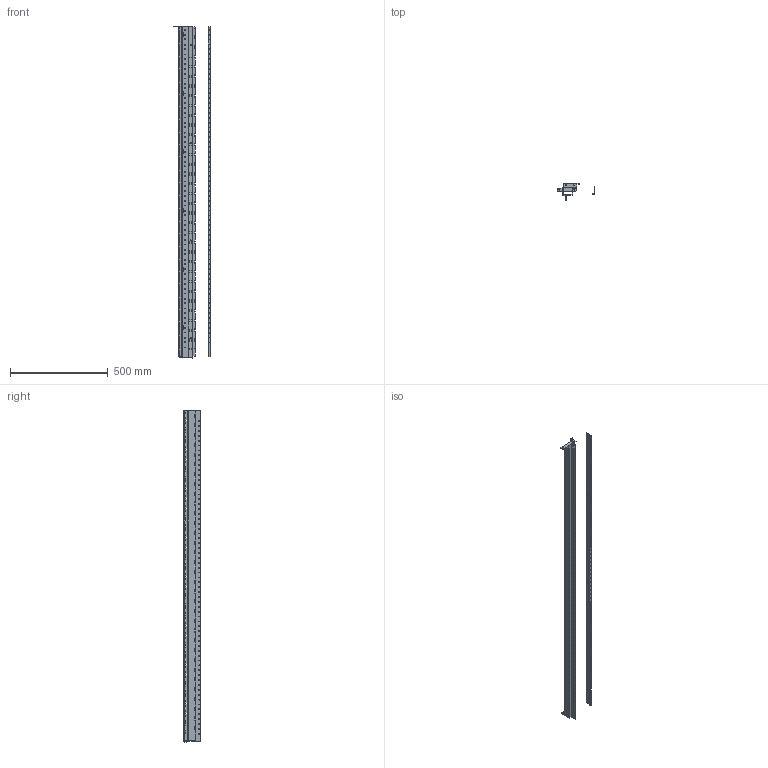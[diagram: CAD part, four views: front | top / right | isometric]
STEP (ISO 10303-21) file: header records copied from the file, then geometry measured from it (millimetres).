
FILE_DESCRIPTION(('CAx-IF Rec.Pracs.---Model Styling and Organization---1.2---2011-12-15','CAx-IF Rec.Pracs.---Geometric and Assembly Validation Properties---4.1---2014-06-16','CAx-IF Rec.Pracs.---PMI Polyline Presentation---2.0---2013-05-24'),'2;1');
FILE_NAME('R5M2ACRS33M6.stp','2021-05-05T12:00:43+03:00',(''),(''),'STEP Interface 4.4 by CT CoreTechnologie','3D_Evolution4.4 by CT CoreTechnologie','');
FILE_SCHEMA(('AUTOMOTIVE_DESIGN { 1 0 10303 214 1 1 1 1 }'));
Length unit declared in the file: millimetre
Products named in the file (6): R5M2ACRS33M6; RB.1271.00.00.0 ÑÁ_-01; RB.1271.00.01.0_-01; RB.1271.00.02.0_-01; M5x8-DIN7500C_stright; RB.1397.00.00.0_- 01 (KODIROVKA)
Assembly tree (8 placements, depth 3):
  R5M2ACRS33M6
    RB.1271.00.00.0 ÑÁ_-01
      RB.1271.00.01.0_-01
      RB.1271.00.02.0_-01
      M5x8-DIN7500C_stright  x4
    RB.1397.00.00.0_- 01 (KODIROVKA)
Bounding box: 191.6 x 92 x 1699 mm (x, y, z)
Surface area: 1085160.4 mm2 (no closed solid volume)
Topology: 0 solids, 7 shells, 1644 faces, 5064 edges, 3356 vertices
Faces by surface type: plane 932, cylinder 710, bspline 2
Entity records: 58449 total; most frequent: CARTESIAN_POINT 10103, ORIENTED_EDGE 10092, DIRECTION 9730, EDGE_CURVE 5046, VECTOR 3636, LINE 3636, VERTEX_POINT 3344, AXIS2_PLACEMENT_3D 3047
